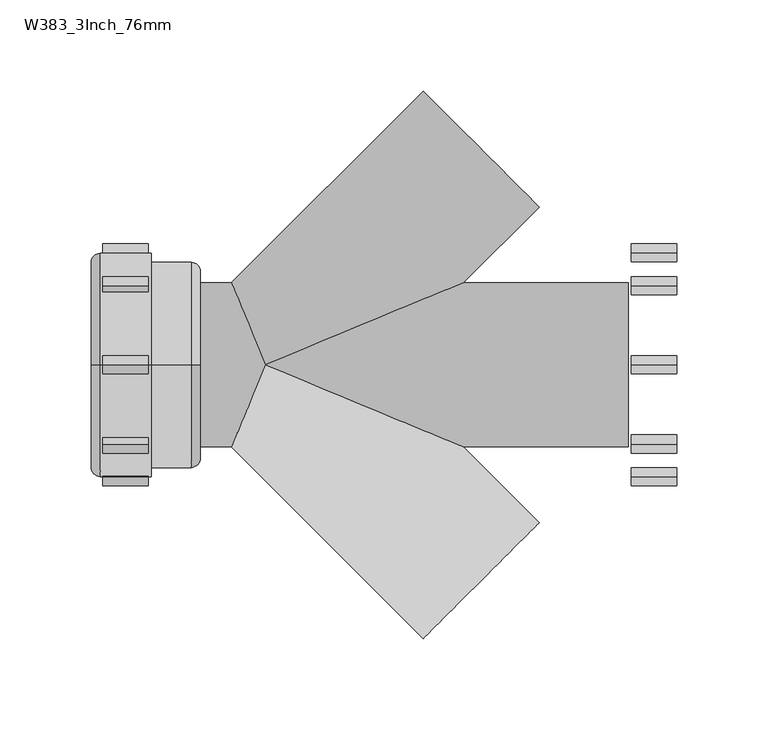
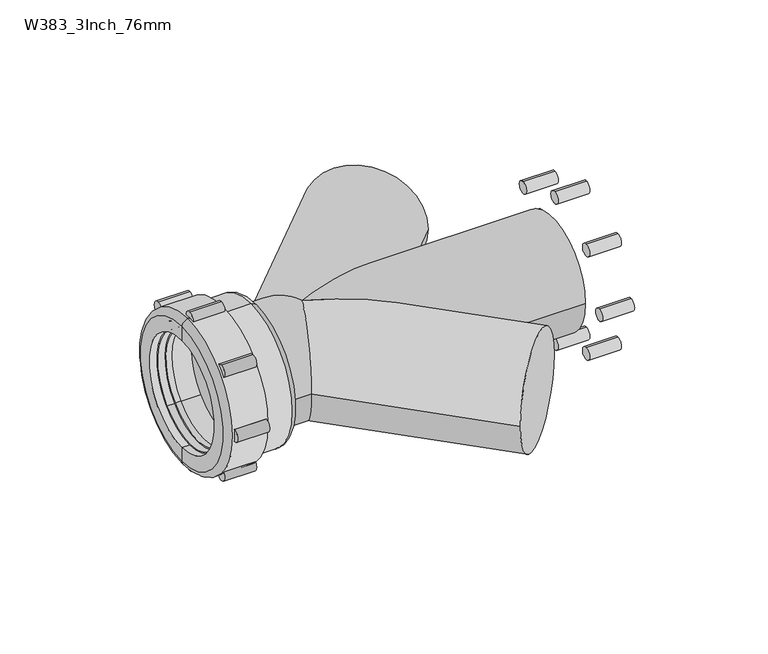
"""IFC4 building model written with IfcOpenShell, lengths in millimetres: pipe fitting geometry, Durapipe_PipeFitting_VulcatheneMechanical_DoubleWye_W38 : W383_3Inch_76mm."""

from ifc_helpers import new_model, si_unit, point, frame, frame_2d, origin, place, context, project, spatial, polyline, circle_curve, ellipse_curve, trimmed, segment, composite_curve, outline, extrude, source, transform, mapped, element, save
from ifc_brep_helpers import plane_surface, cylinder_surface, revolved_surface, advanced_brep


def w383_3inch_76mm_d16cb87b(model_context):
    return source(origin(), model_context, "Body", "SolidModel", [
        extrude(outline(composite_curve([segment(trimmed(circle_curve(frame_2d((-61.5, 0.0)), 5.0), [point((-61.5, 5.0))], [point((-61.5, -5.0))], False, "CARTESIAN"), True, "CONTINUOUS"), segment(trimmed(circle_curve(frame_2d((-61.5, 0.0)), 5.0), [point((-61.5, -5.0))], [point((-61.5, 5.0))], False, "CARTESIAN"), True, "CONTINUOUS")], self_intersect=False)), frame((200.7, 0.0, 0.0), z_axis=(1.0, 0.0, 0.0), x_axis=(0.0, 1.0, 0.0)), (0.0, 0.0, 1.0), 25.2),
        extrude(outline(composite_curve([segment(trimmed(circle_curve(frame_2d((-43.487067, -43.487067)), 5.0), [point((-43.487067, -38.487067))], [point((-43.487067, -48.487067))], False, "CARTESIAN"), True, "CONTINUOUS"), segment(trimmed(circle_curve(frame_2d((-43.487067, -43.487067)), 5.0), [point((-43.487067, -48.487067))], [point((-43.487067, -38.487067))], False, "CARTESIAN"), True, "CONTINUOUS")], self_intersect=False)), frame((200.7, 0.0, 0.0), z_axis=(1.0, 0.0, 0.0), x_axis=(0.0, 1.0, 0.0)), (0.0, 0.0, 1.0), 25.2),
        extrude(outline(composite_curve([segment(trimmed(circle_curve(frame_2d((0.0, -61.5)), 5.0), [point((0.0, -56.5))], [point((0.0, -66.5))], False, "CARTESIAN"), True, "CONTINUOUS"), segment(trimmed(circle_curve(frame_2d((0.0, -61.5)), 5.0), [point((0.0, -66.5))], [point((0.0, -56.5))], False, "CARTESIAN"), True, "CONTINUOUS")], self_intersect=False)), frame((200.7, 0.0, 0.0), z_axis=(1.0, 0.0, 0.0), x_axis=(0.0, 1.0, 0.0)), (0.0, 0.0, 1.0), 25.2),
        extrude(outline(composite_curve([segment(trimmed(circle_curve(frame_2d((43.487067, -43.487067)), 5.0), [point((43.487067, -38.487067))], [point((43.487067, -48.487067))], False, "CARTESIAN"), True, "CONTINUOUS"), segment(trimmed(circle_curve(frame_2d((43.487067, -43.487067)), 5.0), [point((43.487067, -48.487067))], [point((43.487067, -38.487067))], False, "CARTESIAN"), True, "CONTINUOUS")], self_intersect=False)), frame((200.7, 0.0, 0.0), z_axis=(1.0, 0.0, 0.0), x_axis=(0.0, 1.0, 0.0)), (0.0, 0.0, 1.0), 25.2),
        extrude(outline(composite_curve([segment(trimmed(circle_curve(frame_2d((61.5, 0.0)), 5.0), [point((61.5, 5.0))], [point((61.5, -5.0))], False, "CARTESIAN"), True, "CONTINUOUS"), segment(trimmed(circle_curve(frame_2d((61.5, 0.0)), 5.0), [point((61.5, -5.0))], [point((61.5, 5.0))], False, "CARTESIAN"), True, "CONTINUOUS")], self_intersect=False)), frame((200.7, 0.0, 0.0), z_axis=(1.0, 0.0, 0.0), x_axis=(0.0, 1.0, 0.0)), (0.0, 0.0, 1.0), 25.2),
        extrude(outline(composite_curve([segment(trimmed(circle_curve(frame_2d((43.487067, 43.487067)), 5.0), [point((43.487067, 48.487067))], [point((43.487067, 38.487067))], False, "CARTESIAN"), True, "CONTINUOUS"), segment(trimmed(circle_curve(frame_2d((43.487067, 43.487067)), 5.0), [point((43.487067, 38.487067))], [point((43.487067, 48.487067))], False, "CARTESIAN"), True, "CONTINUOUS")], self_intersect=False)), frame((200.7, 0.0, 0.0), z_axis=(1.0, 0.0, 0.0), x_axis=(0.0, 1.0, 0.0)), (0.0, 0.0, 1.0), 25.2),
        extrude(outline(composite_curve([segment(trimmed(circle_curve(frame_2d((0.0, 61.5)), 5.0), [point((0.0, 66.5))], [point((0.0, 56.5))], False, "CARTESIAN"), True, "CONTINUOUS"), segment(trimmed(circle_curve(frame_2d((0.0, 61.5)), 5.0), [point((0.0, 56.5))], [point((0.0, 66.5))], False, "CARTESIAN"), True, "CONTINUOUS")], self_intersect=False)), frame((200.7, 0.0, 0.0), z_axis=(1.0, 0.0, 0.0), x_axis=(0.0, 1.0, 0.0)), (0.0, 0.0, 1.0), 25.2),
        extrude(outline(composite_curve([segment(trimmed(circle_curve(frame_2d((-43.487067, 43.487067)), 5.0), [point((-43.487067, 48.487067))], [point((-43.487067, 38.487067))], False, "CARTESIAN"), True, "CONTINUOUS"), segment(trimmed(circle_curve(frame_2d((-43.487067, 43.487067)), 5.0), [point((-43.487067, 38.487067))], [point((-43.487067, 48.487067))], False, "CARTESIAN"), True, "CONTINUOUS")], self_intersect=False)), frame((200.7, 0.0, 0.0), z_axis=(1.0, 0.0, 0.0), x_axis=(0.0, 1.0, 0.0)), (0.0, 0.0, 1.0), 25.2),
        advanced_brep(
        [(-89.4, 35.9917352, -35.9917352), (-89.4, 31.3248304, -31.3248304), (-89.4, -31.3248304, 31.3248304), (-89.4, -35.9917352, 35.9917352), (-69.1, -32.8804653, 32.8804653), (-69.1, 32.8804653, -32.8804653), (-44.4, 32.8804653, -32.8804653), (-44.4, -32.8804653, 32.8804653), (-44.4, -31.3248304, 31.3248304), (-44.4, 31.3248304, -31.3248304), (-78.7, -31.3248304, 31.3248304), (-78.7, 31.3248304, -31.3248304), (-78.7, -30.6884343, 30.6884343), (-78.7, 30.6884343, -30.6884343), (-83.3, 31.3248304, -31.3248304), (-83.3, 30.6884343, -30.6884343), (-83.3, -30.6884343, 30.6884343), (-83.3, -31.3248304, 31.3248304)],
        [
            (0, 1),
            (1, 2, circle_curve(frame((-89.4, 0.0, 0.0), z_axis=(1.0, 0.0, 0.0), x_axis=(0.0, -0.7071067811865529, 0.7071067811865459)), 44.3)),
            (2, 3),
            (3, 0, circle_curve(frame((-89.4, 0.0, 0.0), z_axis=(-1.0, 0.0, 0.0), x_axis=(0.0, -0.7071067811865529, 0.7071067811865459)), 50.9)),
            (2, 1, circle_curve(frame((-89.4, 0.0, 0.0), z_axis=(1.0, 0.0, 0.0), x_axis=(0.0, -0.7071067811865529, 0.7071067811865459)), 44.3)),
            (0, 3, circle_curve(frame((-89.4, 0.0, 0.0), z_axis=(-1.0, 0.0, 0.0), x_axis=(0.0, -0.7071067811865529, 0.7071067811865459)), 50.9)),
            (3, 4),
            (4, 5, circle_curve(frame((-69.1, 0.0, 0.0), z_axis=(-1.0, 0.0, 0.0), x_axis=(0.0, -0.7071067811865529, 0.7071067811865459)), 46.5)),
            (5, 0),
            (5, 4, circle_curve(frame((-69.1, 0.0, 0.0), z_axis=(-1.0, 0.0, 0.0), x_axis=(0.0, -0.7071067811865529, 0.7071067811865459)), 46.5)),
            (6, 5),
            (4, 7),
            (7, 6, circle_curve(frame((-44.4, 0.0, 0.0), z_axis=(-1.0, 0.0, 0.0), x_axis=(0.0, -0.7071067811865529, 0.7071067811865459)), 46.5)),
            (6, 7, circle_curve(frame((-44.4, 0.0, 0.0), z_axis=(-1.0, 0.0, 0.0), x_axis=(0.0, -0.7071067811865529, 0.7071067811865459)), 46.5)),
            (7, 8),
            (8, 9, circle_curve(frame((-44.4, 0.0, 0.0), z_axis=(-1.0, 0.0, 0.0), x_axis=(0.0, -0.7071067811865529, 0.7071067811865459)), 44.3)),
            (9, 6),
            (9, 8, circle_curve(frame((-44.4, 0.0, 0.0), z_axis=(-1.0, 0.0, 0.0), x_axis=(0.0, -0.7071067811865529, 0.7071067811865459)), 44.3)),
            (8, 10),
            (10, 11, circle_curve(frame((-78.7, 0.0, 0.0), z_axis=(-1.0, 0.0, 0.0), x_axis=(0.0, -0.7071067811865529, 0.7071067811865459)), 44.3)),
            (11, 9),
            (11, 10, circle_curve(frame((-78.7, 0.0, 0.0), z_axis=(-1.0, 0.0, 0.0), x_axis=(0.0, -0.7071067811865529, 0.7071067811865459)), 44.3)),
            (10, 12),
            (12, 13, circle_curve(frame((-78.7, 0.0, 0.0), z_axis=(-1.0, 0.0, 0.0), x_axis=(0.0, -0.7071067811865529, 0.7071067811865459)), 43.4)),
            (13, 11),
            (13, 12, circle_curve(frame((-78.7, 0.0, 0.0), z_axis=(-1.0, 0.0, 0.0), x_axis=(0.0, -0.7071067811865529, 0.7071067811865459)), 43.4)),
            (14, 15),
            (15, 16, circle_curve(frame((-83.3, 0.0, 0.0), z_axis=(1.0, 0.0, 0.0), x_axis=(0.0, -0.7071067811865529, 0.7071067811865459)), 43.4)),
            (16, 17),
            (17, 14, circle_curve(frame((-83.3, 0.0, 0.0), z_axis=(-1.0, 0.0, 0.0), x_axis=(0.0, -0.7071067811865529, 0.7071067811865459)), 44.3)),
            (16, 15, circle_curve(frame((-83.3, 0.0, 0.0), z_axis=(1.0, 0.0, 0.0), x_axis=(0.0, -0.7071067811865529, 0.7071067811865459)), 43.4)),
            (14, 17, circle_curve(frame((-83.3, 0.0, 0.0), z_axis=(-1.0, 0.0, 0.0), x_axis=(0.0, -0.7071067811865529, 0.7071067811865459)), 44.3)),
            (1, 14),
            (17, 2),
            (12, 16),
            (15, 13),
        ],
        [
            plane_surface(frame((-89.4, 0.0, 0.0), z_axis=(-1.0, 0.0, 0.0), x_axis=(0.0, -0.707106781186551, 0.707106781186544))),
            revolved_surface(polyline([(-89.4, -35.9917352, 35.9917352), (-69.1, -32.8804653, 32.8804653)]), (-94.4, 0.0, 0.0), (1.0000000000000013, 0.0, 0.0)),
            cylinder_surface(frame((-42.3293443, 0.0, 0.0), z_axis=(1.0000000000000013, 0.0, 0.0), x_axis=(0.0, -0.7071067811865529, 0.7071067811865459)), 46.5),
            plane_surface(frame((-44.4, 0.0, 0.0), z_axis=(1.0, 0.0, 0.0), x_axis=(0.0, -0.707106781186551, 0.707106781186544))),
            revolved_surface(polyline([(-44.400000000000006, -31.324830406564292, 31.324830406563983), (-78.7000000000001, -31.324830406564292, 31.324830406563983)]), (-40.907009, 0.0, 0.0), (1.0000000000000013, 0.0, 0.0)),
            plane_surface(frame((-78.7, 0.0, 0.0), z_axis=(1.0, 0.0, 0.0), x_axis=(0.0, -0.707106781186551, 0.707106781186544))),
            plane_surface(frame((-83.3, 0.0, 0.0), z_axis=(-1.0, 0.0, 0.0), x_axis=(0.0, -0.707106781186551, 0.707106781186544))),
            revolved_surface(polyline([(-83.29999999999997, -31.324830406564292, 31.324830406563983), (-89.39999999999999, -31.324830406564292, 31.324830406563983)]), (-94.4, 0.0, 0.0), (1.0000000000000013, 0.0, 0.0)),
            revolved_surface(polyline([(-78.69999999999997, -30.688434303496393, 30.68843430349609), (-83.29999999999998, -30.688434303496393, 30.68843430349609)]), (-90.9661924, 0.0, 0.0), (1.0000000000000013, 0.0, 0.0)),
        ],
        [
            (0, [[1, 2, 3, 4]]),
            (0, [[5, -1, 6, -3]]),
            (1, [[7, 8, 9, -4]]),
            (1, [[-9, 10, -7, -6]]),
            (2, [[11, -8, 12, 13]]),
            (2, [[-10, -11, 14, -12]]),
            (3, [[15, 16, 17, -13]]),
            (3, [[-17, 18, -15, -14]]),
            (4, [[-16, 19, 20, 21]]),
            (4, [[22, -19, -18, -21]]),
            (5, [[23, 24, 25, -20]]),
            (5, [[-25, 26, -23, -22]]),
            (6, [[27, 28, 29, 30]]),
            (6, [[-29, 31, -27, 32]]),
            (7, [[33, -30, 34, -2]]),
            (7, [[-34, -32, -33, -5]]),
            (8, [[-24, 35, -28, 36]]),
            (8, [[-31, -35, -26, -36]]),
        ],
    ),
        advanced_brep(
        [(-62.7, 0.0, -61.5), (-90.7, 0.0, -61.5), (-90.7, 0.0, 61.5), (-62.7, 0.0, 61.5), (-62.7, 0.0, -56.5), (-62.7, 0.0, 56.5), (-95.7, 0.0, -56.5), (-95.7, 0.0, -45.0), (-95.7, 0.0, 45.0), (-95.7, 0.0, 56.5), (-89.4, 0.0, -53.0), (-62.7, 0.0, -53.0), (-62.7, 0.0, 53.0), (-89.4, 0.0, 53.0), (-89.4, 0.0, -45.0), (-89.4, 0.0, 45.0), (-40.7, 0.0, -56.5), (-40.7, 0.0, 56.5), (-35.7, 0.0, -51.5), (-35.7, 0.0, 51.5), (-35.7, 0.0, 0.0), (-62.7, 0.0, 0.0)],
        [
            (0, 1),
            (1, 2, circle_curve(frame((-90.7, 0.0, 0.0), z_axis=(1.0, 0.0, 0.0), x_axis=(0.0, 0.0, 1.0000000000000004)), 61.5)),
            (2, 3),
            (3, 0, circle_curve(frame((-62.7, 0.0, 0.0), z_axis=(-1.0, 0.0, 0.0), x_axis=(0.0, 0.0, 1.0000000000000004)), 61.5)),
            (2, 1, circle_curve(frame((-90.7, 0.0, 0.0), z_axis=(1.0, 0.0, 0.0), x_axis=(0.0, 0.0, 1.0000000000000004)), 61.5)),
            (0, 3, circle_curve(frame((-62.7, 0.0, 0.0), z_axis=(-1.0, 0.0, 0.0), x_axis=(0.0, 0.0, 1.0000000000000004)), 61.5)),
            (4, 0),
            (3, 5),
            (5, 4, circle_curve(frame((-62.7, 0.0, 0.0), z_axis=(-1.0, 0.0, 0.0), x_axis=(0.0, 0.0, 1.0000000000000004)), 56.5)),
            (4, 5, circle_curve(frame((-62.7, 0.0, 0.0), z_axis=(-1.0, 0.0, 0.0), x_axis=(0.0, 0.0, 1.0000000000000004)), 56.5)),
            (6, 7),
            (7, 8, circle_curve(frame((-95.7, 0.0, 0.0), z_axis=(1.0, 0.0, 0.0), x_axis=(0.0, 0.0, 1.0000000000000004)), 45.0)),
            (8, 9),
            (9, 6, circle_curve(frame((-95.7, 0.0, 0.0), z_axis=(-1.0, 0.0, 0.0), x_axis=(0.0, 0.0, 1.0000000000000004)), 56.5)),
            (8, 7, circle_curve(frame((-95.7, 0.0, 0.0), z_axis=(1.0, 0.0, 0.0), x_axis=(0.0, 0.0, 1.0000000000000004)), 45.0)),
            (6, 9, circle_curve(frame((-95.7, 0.0, 0.0), z_axis=(-1.0, 0.0, 0.0), x_axis=(0.0, 0.0, 1.0000000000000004)), 56.5)),
            (1, 6, circle_curve(frame((-90.7, 0.0, -56.5), z_axis=(0.0, 1.0000000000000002, 0.0), x_axis=(-1.0000000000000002, 0.0, 0.0)), 5.0)),
            (9, 2, circle_curve(frame((-90.7, 0.0, 56.5), z_axis=(0.0, 1.0000000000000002, 0.0), x_axis=(-1.0000000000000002, 0.0, 0.0)), 5.0)),
            (10, 11),
            (11, 12, circle_curve(frame((-62.7, 0.0, 0.0), z_axis=(1.0, 0.0, 0.0), x_axis=(0.0, 0.0, 1.0000000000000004)), 53.0)),
            (12, 13),
            (13, 10, circle_curve(frame((-89.4, 0.0, 0.0), z_axis=(-1.0, 0.0, 0.0), x_axis=(0.0, 0.0, 1.0000000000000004)), 53.0)),
            (12, 11, circle_curve(frame((-62.7, 0.0, 0.0), z_axis=(1.0, 0.0, 0.0), x_axis=(0.0, 0.0, 1.0000000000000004)), 53.0)),
            (10, 13, circle_curve(frame((-89.4, 0.0, 0.0), z_axis=(-1.0, 0.0, 0.0), x_axis=(0.0, 0.0, 1.0000000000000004)), 53.0)),
            (14, 10),
            (13, 15),
            (15, 14, circle_curve(frame((-89.4, 0.0, 0.0), z_axis=(-1.0, 0.0, 0.0), x_axis=(0.0, 0.0, 1.0000000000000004)), 45.0)),
            (14, 15, circle_curve(frame((-89.4, 0.0, 0.0), z_axis=(-1.0, 0.0, 0.0), x_axis=(0.0, 0.0, 1.0000000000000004)), 45.0)),
            (7, 14),
            (15, 8),
            (16, 4),
            (5, 17),
            (17, 16, circle_curve(frame((-40.7, 0.0, 0.0), z_axis=(-1.0, 0.0, 0.0), x_axis=(0.0, 0.0, 1.0000000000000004)), 56.5)),
            (16, 17, circle_curve(frame((-40.7, 0.0, 0.0), z_axis=(-1.0, 0.0, 0.0), x_axis=(0.0, 0.0, 1.0000000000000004)), 56.5)),
            (18, 16, circle_curve(frame((-40.7, 0.0, -51.5), z_axis=(0.0, 1.0000000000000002, 0.0), x_axis=(-1.0000000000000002, 0.0, 0.0)), 5.0)),
            (17, 19, circle_curve(frame((-40.7, 0.0, 51.5), z_axis=(0.0, 1.0000000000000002, 0.0), x_axis=(-1.0000000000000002, 0.0, 0.0)), 5.0)),
            (19, 18, circle_curve(frame((-35.7, 0.0, 0.0), z_axis=(-1.0, 0.0, 0.0), x_axis=(0.0, 0.0, 1.0000000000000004)), 51.5)),
            (18, 19, circle_curve(frame((-35.7, 0.0, 0.0), z_axis=(-1.0, 0.0, 0.0), x_axis=(0.0, 0.0, 1.0000000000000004)), 51.5)),
            (20, 18),
            (19, 20),
            (11, 21),
            (21, 12),
        ],
        [
            cylinder_surface(frame((-1656.5018184, 0.0, 0.0), z_axis=(1.0000000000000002, 0.0, 0.0), x_axis=(0.0, 0.0, 1.0000000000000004)), 61.5),
            plane_surface(frame((-62.7, 0.0, 0.0), z_axis=(1.0, 0.0, 0.0), x_axis=(0.0, 0.0, 1.0))),
            plane_surface(frame((-95.7, 0.0, 0.0), z_axis=(-1.0, 0.0, 0.0), x_axis=(0.0, 0.0, 1.0))),
            revolved_surface(trimmed(ellipse_curve(frame((-90.7, 0.0, 56.5), z_axis=(0.0, 1.0000000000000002, 0.0), x_axis=(-1.0000000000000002, 0.0, 0.0)), 5.0, 5.0), [point((-95.7, 0.0, 56.5))], [point((-90.7, 0.0, 61.5))], True, "CARTESIAN"), (-1656.5018184, 0.0, 0.0), (1.0000000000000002, 0.0, 0.0)),
            revolved_surface(polyline([(-62.699999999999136, 0.0, 53.00000000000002), (-89.39999999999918, 0.0, 53.00000000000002)]), (-1656.5018184, 0.0, 0.0), (1.0000000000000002, 0.0, 0.0)),
            plane_surface(frame((-89.4, 0.0, 0.0), z_axis=(1.0, 0.0, 0.0), x_axis=(0.0, 0.0, 1.0))),
            revolved_surface(polyline([(-89.39999999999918, 0.0, 45.00000000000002), (-95.69999999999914, 0.0, 45.00000000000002)]), (-1656.5018184, 0.0, 0.0), (1.0000000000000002, 0.0, 0.0)),
            cylinder_surface(frame((-1656.5018184, 0.0, 0.0), z_axis=(1.0000000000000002, 0.0, 0.0), x_axis=(0.0, 0.0, 1.0000000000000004)), 56.5),
            revolved_surface(trimmed(ellipse_curve(frame((-40.7, 0.0, 51.5), z_axis=(0.0, 1.0000000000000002, 0.0), x_axis=(-1.0000000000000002, 0.0, 0.0)), 5.0, 5.0), [point((-40.7, 0.0, 56.5))], [point((-35.7, 0.0, 51.5))], True, "CARTESIAN"), (-1656.5018184, 0.0, 0.0), (1.0000000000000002, 0.0, 0.0)),
            plane_surface(frame((-35.7, 0.0, 0.0), z_axis=(1.0, 0.0, 0.0), x_axis=(0.0, 0.0, 1.0))),
            plane_surface(frame((-62.7, 0.0, 0.0), z_axis=(-1.0, 0.0, 0.0), x_axis=(0.0, 0.0, 1.0))),
        ],
        [
            (0, [[1, 2, 3, 4]]),
            (0, [[-3, 5, -1, 6]]),
            (1, [[7, -4, 8, 9]]),
            (1, [[-8, -6, -7, 10]]),
            (2, [[11, 12, 13, 14]]),
            (2, [[-13, 15, -11, 16]]),
            (3, [[17, -14, 18, -2]]),
            (3, [[-18, -16, -17, -5]]),
            (4, [[19, 20, 21, 22]]),
            (4, [[-21, 23, -19, 24]]),
            (5, [[25, -22, 26, 27]]),
            (5, [[-26, -24, -25, 28]]),
            (6, [[29, -27, 30, -12]]),
            (6, [[-30, -28, -29, -15]]),
            (7, [[31, -9, 32, 33]]),
            (7, [[-32, -10, -31, 34]]),
            (8, [[35, -33, 36, 37]]),
            (8, [[-36, -34, -35, 38]]),
            (9, [[39, -37, 40]]),
            (9, [[-40, -38, -39]]),
            (10, [[41, 42, -20]]),
            (10, [[-42, -41, -23]]),
        ],
    ),
        extrude(outline(composite_curve([segment(trimmed(circle_curve(frame_2d((-61.5, 0.0)), 5.0), [point((-61.5, -5.0))], [point((-61.5, 5.0))], False, "CARTESIAN"), True, "CONTINUOUS"), segment(trimmed(circle_curve(frame_2d((-61.5, 0.0)), 5.0), [point((-61.5, 5.0))], [point((-61.5, -5.0))], False, "CARTESIAN"), True, "CONTINUOUS")], self_intersect=False)), frame((-89.4, 0.0, 0.0), z_axis=(1.0, 0.0, 0.0), x_axis=(0.0, 1.0, 0.0)), (0.0, 0.0, 1.0), 25.2),
        extrude(outline(composite_curve([segment(trimmed(circle_curve(frame_2d((-43.487067, 43.487067)), 5.0), [point((-43.487067, 38.487067))], [point((-43.487067, 48.487067))], False, "CARTESIAN"), True, "CONTINUOUS"), segment(trimmed(circle_curve(frame_2d((-43.487067, 43.487067)), 5.0), [point((-43.487067, 48.487067))], [point((-43.487067, 38.487067))], False, "CARTESIAN"), True, "CONTINUOUS")], self_intersect=False)), frame((-89.4, 0.0, 0.0), z_axis=(1.0, 0.0, 0.0), x_axis=(0.0, 1.0, 0.0)), (0.0, 0.0, 1.0), 25.2),
        extrude(outline(composite_curve([segment(trimmed(circle_curve(frame_2d((0.0, 61.5)), 5.0), [point((0.0, 56.5))], [point((0.0, 66.5))], False, "CARTESIAN"), True, "CONTINUOUS"), segment(trimmed(circle_curve(frame_2d((0.0, 61.5)), 5.0), [point((0.0, 66.5))], [point((0.0, 56.5))], False, "CARTESIAN"), True, "CONTINUOUS")], self_intersect=False)), frame((-89.4, 0.0, 0.0), z_axis=(1.0, 0.0, 0.0), x_axis=(0.0, 1.0, 0.0)), (0.0, 0.0, 1.0), 25.2),
        extrude(outline(composite_curve([segment(trimmed(circle_curve(frame_2d((43.487067, 43.487067)), 5.0), [point((43.487067, 38.487067))], [point((43.487067, 48.487067))], False, "CARTESIAN"), True, "CONTINUOUS"), segment(trimmed(circle_curve(frame_2d((43.487067, 43.487067)), 5.0), [point((43.487067, 48.487067))], [point((43.487067, 38.487067))], False, "CARTESIAN"), True, "CONTINUOUS")], self_intersect=False)), frame((-89.4, 0.0, 0.0), z_axis=(1.0, 0.0, 0.0), x_axis=(0.0, 1.0, 0.0)), (0.0, 0.0, 1.0), 25.2),
        extrude(outline(composite_curve([segment(trimmed(circle_curve(frame_2d((61.5, 0.0)), 5.0), [point((61.5, -5.0))], [point((61.5, 5.0))], False, "CARTESIAN"), True, "CONTINUOUS"), segment(trimmed(circle_curve(frame_2d((61.5, 0.0)), 5.0), [point((61.5, 5.0))], [point((61.5, -5.0))], False, "CARTESIAN"), True, "CONTINUOUS")], self_intersect=False)), frame((-89.4, 0.0, 0.0), z_axis=(1.0, 0.0, 0.0), x_axis=(0.0, 1.0, 0.0)), (0.0, 0.0, 1.0), 25.2),
        extrude(outline(composite_curve([segment(trimmed(circle_curve(frame_2d((43.487067, -43.487067)), 5.0), [point((43.487067, -48.487067))], [point((43.487067, -38.487067))], False, "CARTESIAN"), True, "CONTINUOUS"), segment(trimmed(circle_curve(frame_2d((43.487067, -43.487067)), 5.0), [point((43.487067, -38.487067))], [point((43.487067, -48.487067))], False, "CARTESIAN"), True, "CONTINUOUS")], self_intersect=False)), frame((-89.4, 0.0, 0.0), z_axis=(1.0, 0.0, 0.0), x_axis=(0.0, 1.0, 0.0)), (0.0, 0.0, 1.0), 25.2),
        extrude(outline(composite_curve([segment(trimmed(circle_curve(frame_2d((0.0, -61.5)), 5.0), [point((0.0, -66.5))], [point((0.0, -56.5))], False, "CARTESIAN"), True, "CONTINUOUS"), segment(trimmed(circle_curve(frame_2d((0.0, -61.5)), 5.0), [point((0.0, -56.5))], [point((0.0, -66.5))], False, "CARTESIAN"), True, "CONTINUOUS")], self_intersect=False)), frame((-89.4, 0.0, 0.0), z_axis=(1.0, 0.0, 0.0), x_axis=(0.0, 1.0, 0.0)), (0.0, 0.0, 1.0), 25.2),
        extrude(outline(composite_curve([segment(trimmed(circle_curve(frame_2d((-43.487067, -43.487067)), 5.0), [point((-43.487067, -48.487067))], [point((-43.487067, -38.487067))], False, "CARTESIAN"), True, "CONTINUOUS"), segment(trimmed(circle_curve(frame_2d((-43.487067, -43.487067)), 5.0), [point((-43.487067, -38.487067))], [point((-43.487067, -48.487067))], False, "CARTESIAN"), True, "CONTINUOUS")], self_intersect=False)), frame((-89.4, 0.0, 0.0), z_axis=(1.0, 0.0, 0.0), x_axis=(0.0, 1.0, 0.0)), (0.0, 0.0, 1.0), 25.2),
        advanced_brep(
        [(-62.7, 45.0, 0.0), (-62.7, -45.0, 0.0), (-62.7, 0.0, 7.7042196), (-62.7, -0.9396103, 0.0), (-62.7, 0.0, -7.7042196), (-62.7, 0.9396103, 0.0), (199.2, 45.0, 0.0), (199.2, -45.0, 0.0), (-18.6396103, -45.0, 0.0), (0.0, 0.0, 45.0), (-18.6396103, 45.0, 0.0), (108.6396103, 45.0, 0.0), (108.6396103, -45.0, 0.0), (0.0, 0.0, -45.0), (86.6205807, -150.260191, 0.0), (150.260191, -86.6205807, 0.0), (86.6205807, 150.260191, 0.0), (150.260191, 86.6205807, 0.0), (-63.6396103, 0.0, 0.0)],
        [
            (0, 1, circle_curve(frame((-62.7, 0.0, 0.0), z_axis=(-1.0, 0.0, 0.0), x_axis=(0.0, -1.0, 0.0)), 45.0)),
            (1, 0, circle_curve(frame((-62.7, 0.0, 0.0), z_axis=(-1.0, 0.0, 0.0), x_axis=(0.0, -1.0, 0.0)), 45.0)),
            (2, 3, ellipse_curve(frame((-62.7, 62.7, 0.0), z_axis=(1.0, 0.0, 0.0), x_axis=(0.0, -1.0, 0.0)), 63.6396103, 45.0)),
            (3, 4, ellipse_curve(frame((-62.7, 62.7, 0.0), z_axis=(1.0, 0.0, 0.0), x_axis=(0.0, -1.0, 0.0)), 63.6396103, 45.0)),
            (4, 5, ellipse_curve(frame((-62.7, -62.7, 0.0), z_axis=(1.0, 0.0, 0.0), x_axis=(0.0, -1.0, 0.0)), 63.6396103, 45.0)),
            (5, 2, ellipse_curve(frame((-62.7, -62.7, 0.0), z_axis=(1.0, 0.0, 0.0), x_axis=(0.0, -1.0, 0.0)), 63.6396103, 45.0)),
            (6, 7, circle_curve(frame((199.2, 0.0, 0.0), z_axis=(1.0, 0.0, 0.0), x_axis=(0.0, -1.0, 0.0)), 45.0)),
            (7, 6, circle_curve(frame((199.2, 0.0, 0.0), z_axis=(1.0, 0.0, 0.0), x_axis=(0.0, -1.0, 0.0)), 45.0)),
            (1, 8),
            (8, 9, ellipse_curve(frame((0.0, 0.0, 0.0), z_axis=(-0.9238795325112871, 0.38268343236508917, 0.0), x_axis=(-0.3826834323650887, -0.9238795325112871, 0.0)), 48.707649, 45.0)),
            (9, 10, ellipse_curve(frame((0.0, 0.0, 0.0), z_axis=(-0.9238795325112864, -0.3826834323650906, 0.0), x_axis=(-0.3826834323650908, 0.9238795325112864, 0.0)), 48.707649, 45.0)),
            (10, 0),
            (6, 11),
            (11, 9, ellipse_curve(frame((0.0, 0.0, 0.0), z_axis=(0.3826834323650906, -0.9238795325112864, 0.0), x_axis=(-0.9238795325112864, -0.3826834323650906, 0.0)), 117.5906668, 45.0)),
            (9, 12, ellipse_curve(frame((0.0, 0.0, 0.0), z_axis=(0.38268343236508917, 0.923879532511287, 0.0), x_axis=(-0.9238795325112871, 0.38268343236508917, 0.0)), 117.5906668, 45.0)),
            (12, 7),
            (10, 13, ellipse_curve(frame((0.0, 0.0, 0.0), z_axis=(-0.9238795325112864, -0.3826834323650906, 0.0), x_axis=(-0.3826834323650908, 0.9238795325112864, 0.0)), 48.707649, 45.0)),
            (13, 8, ellipse_curve(frame((0.0, 0.0, 0.0), z_axis=(-0.9238795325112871, 0.38268343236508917, 0.0), x_axis=(-0.3826834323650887, -0.9238795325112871, 0.0)), 48.707649, 45.0)),
            (12, 13, ellipse_curve(frame((0.0, 0.0, 0.0), z_axis=(0.38268343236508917, 0.923879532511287, 0.0), x_axis=(-0.9238795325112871, 0.38268343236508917, 0.0)), 117.5906668, 45.0)),
            (13, 11, ellipse_curve(frame((0.0, 0.0, 0.0), z_axis=(0.3826834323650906, -0.9238795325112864, 0.0), x_axis=(-0.9238795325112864, -0.3826834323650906, 0.0)), 117.5906668, 45.0)),
            (14, 15, circle_curve(frame((118.4403858, -118.4403858, 0.0), z_axis=(0.7071067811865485, -0.7071067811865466, 0.0), x_axis=(0.7071067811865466, 0.7071067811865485, 0.0)), 45.0)),
            (15, 14, circle_curve(frame((118.4403858, -118.4403858, 0.0), z_axis=(0.7071067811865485, -0.7071067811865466, 0.0), x_axis=(0.7071067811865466, 0.7071067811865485, 0.0)), 45.0)),
            (16, 17, circle_curve(frame((118.4403858, 118.4403858, 0.0), z_axis=(0.7071067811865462, 0.7071067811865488, 0.0), x_axis=(0.7071067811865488, -0.7071067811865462, 0.0)), 45.0)),
            (17, 16, circle_curve(frame((118.4403858, 118.4403858, 0.0), z_axis=(0.7071067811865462, 0.7071067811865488, 0.0), x_axis=(0.7071067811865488, -0.7071067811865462, 0.0)), 45.0)),
            (16, 10),
            (11, 17),
            (18, 2, ellipse_curve(frame((0.0, 0.0, 0.0), z_axis=(0.0, 1.0, 0.0), x_axis=(-1.0, 0.0, 0.0)), 63.6396103, 45.0)),
            (5, 18),
            (4, 18, ellipse_curve(frame((0.0, 0.0, 0.0), z_axis=(0.0, 1.0, 0.0), x_axis=(-1.0, 0.0, 0.0)), 63.6396103, 45.0)),
            (18, 3),
            (15, 12),
            (8, 14),
        ],
        [
            plane_surface(frame((-62.7, 0.0, 0.0), z_axis=(-1.0, 0.0, 0.0), x_axis=(0.0, 0.0, 1.0))),
            plane_surface(frame((199.2, 0.0, 0.0), z_axis=(1.0, 0.0, 0.0), x_axis=(0.0, 0.0, 1.0))),
            cylinder_surface(frame((-62.7, 0.0, 0.0), z_axis=(-1.0, 0.0, 0.0), x_axis=(0.0, -1.0, 0.0)), 45.0),
            plane_surface(frame((118.4403858, -118.4403858, 0.0), z_axis=(0.7071067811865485, -0.7071067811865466, 0.0), x_axis=(0.0, 0.0, 1.0))),
            plane_surface(frame((118.4403858, 118.4403858, 0.0), z_axis=(0.7071067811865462, 0.7071067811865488, 0.0), x_axis=(0.0, 0.0, 1.0))),
            cylinder_surface(frame((0.0, 0.0, 0.0), z_axis=(-0.7071067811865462, -0.7071067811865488, 0.0), x_axis=(0.7071067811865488, -0.7071067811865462, 0.0)), 45.0),
            cylinder_surface(frame((118.4403858, -118.4403858, 0.0), z_axis=(0.7071067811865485, -0.7071067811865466, 0.0), x_axis=(0.7071067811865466, 0.7071067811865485, 0.0)), 45.0),
        ],
        [
            (0, [[1, 2], [3, 4, 5, 6]]),
            (1, [[7, 8]]),
            (2, [[9, 10, 11, 12, -2]]),
            (2, [[13, 14, 15, 16, -7]]),
            (2, [[-12, 17, 18, -9, -1]]),
            (2, [[-16, 19, 20, -13, -8]]),
            (3, [[21, 22]]),
            (4, [[23, 24]]),
            (5, [[25, -11, -14, 26, -23]]),
            (5, [[27, -6, 28]]),
            (5, [[-5, 29, -28]]),
            (5, [[-26, -20, -17, -25, -24]]),
            (6, [[-3, -27, 30]]),
            (6, [[31, -15, -10, 32, -22]]),
            (6, [[-29, -4, -30]]),
            (6, [[-32, -18, -19, -31, -21]]),
        ],
    ),
    ])


if __name__ == "__main__":
    model = new_model("IFC4")
    model_context = context("Model", 3, world=origin())
    ifc_project = project(units=[si_unit("LENGTHUNIT", "METRE", prefix="MILLI")], contexts=[model_context])
    site = spatial("IfcSite", under=ifc_project)
    building = spatial("IfcBuilding", under=site)
    placement = place(None, origin())
    w383_3inch_76mm_shape = w383_3inch_76mm_d16cb87b(model_context)
    element("IfcPipeFitting", 1, ObjectType="Durapipe_PipeFitting_VulcatheneMechanical_DoubleWye_W38 : W383_3Inch_76mm", at=placement, inside=building, context=model_context, shape_type="MappedRepresentation", body=[
        mapped(w383_3inch_76mm_shape, transform((0.0, 0.0, 0.0), x_axis=(1.0, 0.0, 0.0), y_axis=(0.0, 1.0, 0.0), z_axis=(0.0, 0.0, 1.0))),
    ])
    save(model, "model.ifc")
